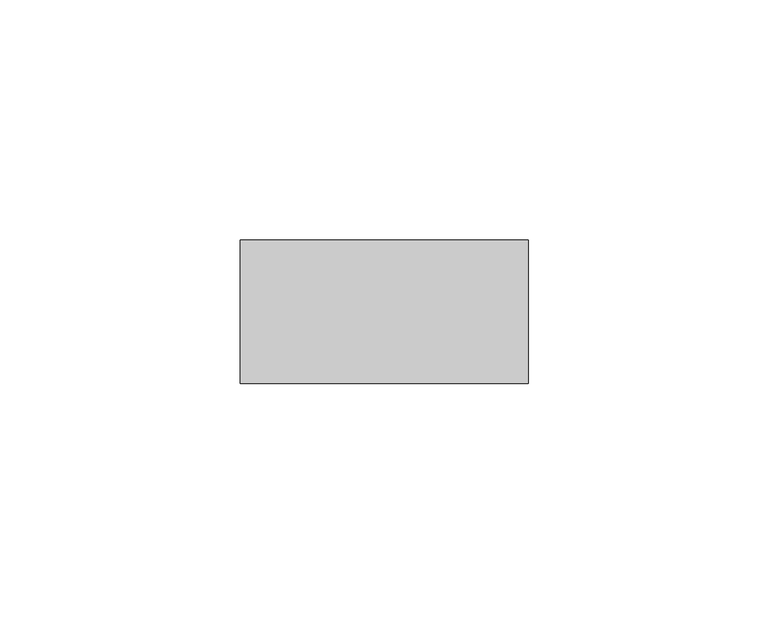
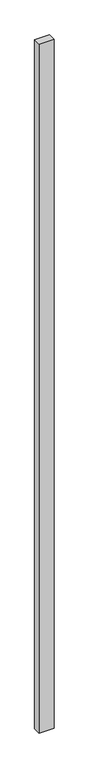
"""IFC4 building model written with IfcOpenShell, lengths in millimetres: member geometry, Прямоугольный импост : Квадрат 30 мм."""

import ifcopenshell
import ifcopenshell.guid

model = None  # the IFC model being written
_history = None  # IfcOwnerHistory: only IFC2X3 demands one
_inside = {}  # id of a spatial element -> (the spatial element, [elements in it])
_under = {}  # id of a project, library or spatial element -> (it, [spatial elements below it])
_declared = {}  # id of a project -> (the project, [libraries it declares])
_typed = {}  # id of a type object -> (the type object, [elements of that type])
_made_of = {}  # id of a material, layer set ... -> (it, [elements and type objects made of it])


def new_model(schema):
    """Start an empty IFC model of exactly this schema.

    Asked for "IFC4X3", IfcOpenShell would pick the latest addendum, in which some entities
    have other attributes; the version numbers below select the first issue.
    IFC2X3 requires an IfcOwnerHistory on every rooted entity: one is made here for all.
    """
    global model, _history
    if schema == "IFC4X3":
        model = ifcopenshell.file(schema_version=(4, 3, 0, 0))
    else:
        model = ifcopenshell.file(schema=schema)
    _inside.clear()
    _under.clear()
    _declared.clear()
    _typed.clear()
    _made_of.clear()
    _history = None
    if model.schema == "IFC2X3":
        org = make("IfcOrganization", Name="unknown")
        user = make(
            "IfcPersonAndOrganization",
            ThePerson=make("IfcPerson", FamilyName="unknown"),
            TheOrganization=org,
        )
        app = make(
            "IfcApplication",
            ApplicationDeveloper=org,
            Version="unknown",
            ApplicationFullName="unknown",
            ApplicationIdentifier="unknown",
        )
        _history = make(
            "IfcOwnerHistory",
            OwningUser=user,
            OwningApplication=app,
            ChangeAction="ADDED",
            CreationDate=0,
        )
    return model


def make(cls, **values):
    """One entity of the class cls with the attributes given. An attribute that is None is left unset."""
    return model.create_entity(
        cls, **{name: value for name, value in values.items() if value is not None}
    )


def rooted(cls, **values):
    """An entity with a GlobalId (a new one), such as an element, a storey or a relation."""
    return make(cls, GlobalId=ifcopenshell.guid.new(), OwnerHistory=_history, **values)


def si_unit(unit_type, name, prefix=None):
    """IfcSIUnit, for example si_unit("LENGTHUNIT", "METRE", prefix="MILLI")."""
    return make("IfcSIUnit", UnitType=unit_type, Prefix=prefix, Name=name)


def assignment(units):
    """IfcUnitAssignment: the units of a project."""
    return None if units is None else make("IfcUnitAssignment", Units=units)


def point(xyz):
    """IfcCartesianPoint."""
    return None if xyz is None else make("IfcCartesianPoint", Coordinates=xyz)


def direction(xyz):
    """IfcDirection."""
    return None if xyz is None else make("IfcDirection", DirectionRatios=xyz)


def frame(location, z_axis=None, x_axis=None):
    """IfcAxis2Placement3D, a coordinate frame: its origin and axes. An axis left out is left unset."""
    return make(
        "IfcAxis2Placement3D",
        Location=point(location),
        Axis=direction(z_axis),
        RefDirection=direction(x_axis),
    )


def origin():
    """The frame at (0, 0, 0) with its axes left unset."""
    return frame((0.0, 0.0, 0.0))


def place(relative_to, where):
    """IfcLocalPlacement: puts the frame where relative to a parent placement (None: the world)."""
    return make(
        "IfcLocalPlacement", PlacementRelTo=relative_to, RelativePlacement=where
    )


def context(
    kind, dimensions, precision=None, world=None, true_north=None, identifier=None
):
    """IfcGeometricRepresentationContext, for example the 3D "Model" context."""
    return make(
        "IfcGeometricRepresentationContext",
        ContextIdentifier=identifier,
        ContextType=kind,
        CoordinateSpaceDimension=dimensions,
        Precision=precision,
        WorldCoordinateSystem=world,
        TrueNorth=true_north,
    )


def project(units=None, contexts=None):
    """IfcProject with its units and contexts."""
    return rooted(
        "IfcProject",
        Name="project",
        RepresentationContexts=contexts,
        UnitsInContext=assignment(units),
    )


def spatial(cls, under=None, at=None, **own):
    """A site, building, storey or space (cls), placed at a placement, below another one or the project."""
    s = rooted(cls, ObjectPlacement=at, **own)
    if under is not None:
        _under.setdefault(under.id(), (under, []))[1].append(s)
    return s


def polyline(points):
    """IfcPolyline through the points."""
    return make("IfcPolyline", Points=[point(p) for p in points])


def outline(outer, holes=None, kind="AREA"):
    """IfcArbitraryClosedProfileDef: a profile drawn as a closed curve; with holes, ...WithVoids."""
    if holes is None:
        return make("IfcArbitraryClosedProfileDef", ProfileType=kind, OuterCurve=outer)
    return make(
        "IfcArbitraryProfileDefWithVoids",
        ProfileType=kind,
        OuterCurve=outer,
        InnerCurves=holes,
    )


def extrude(swept, where, along, depth):
    """IfcExtrudedAreaSolid: the profile swept, set in the frame where, extruded along a direction by depth."""
    return make(
        "IfcExtrudedAreaSolid",
        SweptArea=swept,
        Position=where,
        ExtrudedDirection=direction(along),
        Depth=depth,
    )


def shape(context_of_items, identifier, shape_type, items):
    """IfcShapeRepresentation: the items that make up one representation, for example the "Body"."""
    return make(
        "IfcShapeRepresentation",
        ContextOfItems=context_of_items,
        RepresentationIdentifier=identifier,
        RepresentationType=shape_type,
        Items=items,
    )


def source(mapping_origin, context_of_items, identifier, shape_type, items):
    """IfcRepresentationMap: a shape defined once, which mapped items show again and again."""
    return make(
        "IfcRepresentationMap",
        MappingOrigin=mapping_origin,
        MappedRepresentation=shape(context_of_items, identifier, shape_type, items),
    )


def transform(
    local_origin,
    x_axis=None,
    y_axis=None,
    z_axis=None,
    scale=None,
    scale2=None,
    scale3=None,
    uniform=True,
):
    """IfcCartesianTransformationOperator3D, or its non-uniform kind. x_axis, y_axis, z_axis: its Axis1, 2, 3."""
    if uniform:
        return make(
            "IfcCartesianTransformationOperator3D",
            Axis1=direction(x_axis),
            Axis2=direction(y_axis),
            LocalOrigin=point(local_origin),
            Scale=scale,
            Axis3=direction(z_axis),
        )
    return make(
        "IfcCartesianTransformationOperator3DnonUniform",
        Axis1=direction(x_axis),
        Axis2=direction(y_axis),
        LocalOrigin=point(local_origin),
        Scale=scale,
        Axis3=direction(z_axis),
        Scale2=scale2,
        Scale3=scale3,
    )


def mapped(mapping_source, mapping_target):
    """IfcMappedItem: shows the shape of a source again, moved by a transform."""
    return make(
        "IfcMappedItem", MappingSource=mapping_source, MappingTarget=mapping_target
    )


def made_of(thing, what):
    """Note that an element or type object is made of a material, layer set ...; save() writes the relation."""
    if what is not None:
        _made_of.setdefault(what.id(), (what, []))[1].append(thing)
    return thing


def element(
    cls,
    number,
    at=None,
    inside=None,
    cuts=None,
    type_object=None,
    material=None,
    context=None,
    identifier="Body",
    shape_type=None,
    held_by="IfcProductDefinitionShape",
    body=None,
    shapes=None,
    **own,
):
    """One element of the class cls, such as IfcWall. Its Tag is "e" and its number.

    at: its placement. inside: the storey or other place that contains it. cuts: it is an
    opening in that element (IfcRelVoidsElement). A single representation is given by context,
    identifier, shape_type and body (its items); several are given by shapes. held_by: the class
    of the entity that holds the representations. save() writes the other relations.
    """
    e = rooted(cls, Tag="e%d" % number, ObjectPlacement=at, **own)
    if body is not None:
        shapes = [shape(context, identifier, shape_type, body)]
    if shapes is not None:
        e.Representation = make(held_by, Representations=shapes)
    if inside is not None:
        _inside.setdefault(inside.id(), (inside, []))[1].append(e)
    if cuts is not None:
        rooted(
            "IfcRelVoidsElement", RelatingBuildingElement=cuts, RelatedOpeningElement=e
        )
    if type_object is not None:
        _typed.setdefault(type_object.id(), (type_object, []))[1].append(e)
    return made_of(e, material)


def aggregate(whole, parts):
    """IfcRelAggregates: a whole, such as a stair, and the parts it consists of."""
    return rooted("IfcRelAggregates", RelatingObject=whole, RelatedObjects=parts)


def save(model, path):
    """Write the relations noted so far, then the file.

    IfcRelAggregates (storeys below a building ...), IfcRelContainedInSpatialStructure (elements
    in a storey), IfcRelDefinesByType, IfcRelAssociatesMaterial and IfcRelDeclares: one each for
    every whole, place, type object, material and project.
    """
    for whole, parts in _under.values():
        aggregate(whole, parts)
    for where, things in _inside.values():
        rooted(
            "IfcRelContainedInSpatialStructure",
            RelatedElements=things,
            RelatingStructure=where,
        )
    for kind, things in _typed.values():
        rooted("IfcRelDefinesByType", RelatedObjects=things, RelatingType=kind)
    for what, things in _made_of.values():
        rooted("IfcRelAssociatesMaterial", RelatedObjects=things, RelatingMaterial=what)
    for by, libraries in _declared.values():
        rooted("IfcRelDeclares", RelatingContext=by, RelatedDefinitions=libraries)
    model.write(path)


def member_41a5b5aa(model_context):
    return source(origin(), model_context, "Body", "SweptSolid", [
        extrude(outline(polyline([(0.0, 15.0), (0.0, -15.0), (-60.0, -15.0), (-60.0, 15.0), (0.0, 15.0)])), frame((0.0, 0.0, -2910.0), z_axis=(0.0, 0.0, 1.0), x_axis=(1.0, 0.0, 0.0)), (0.0, 0.0, 1.0), 2910.0),
    ])


if __name__ == "__main__":
    model = new_model("IFC4")
    model_context = context("Model", 3, world=origin())
    ifc_project = project(units=[si_unit("LENGTHUNIT", "METRE", prefix="MILLI")], contexts=[model_context])
    site = spatial("IfcSite", under=ifc_project)
    building = spatial("IfcBuilding", under=site)
    placement = place(None, origin())
    member_shape = member_41a5b5aa(model_context)
    element("IfcMember", 1, ObjectType="Прямоугольный импост : Квадрат 30 мм", at=placement, inside=building, context=model_context, shape_type="MappedRepresentation", body=[
        mapped(member_shape, transform((0.0, 0.0, 0.0), x_axis=(1.0, 0.0, 0.0), y_axis=(0.0, 1.0, 0.0), z_axis=(0.0, 0.0, 1.0))),
    ])
    save(model, "model.ifc")
